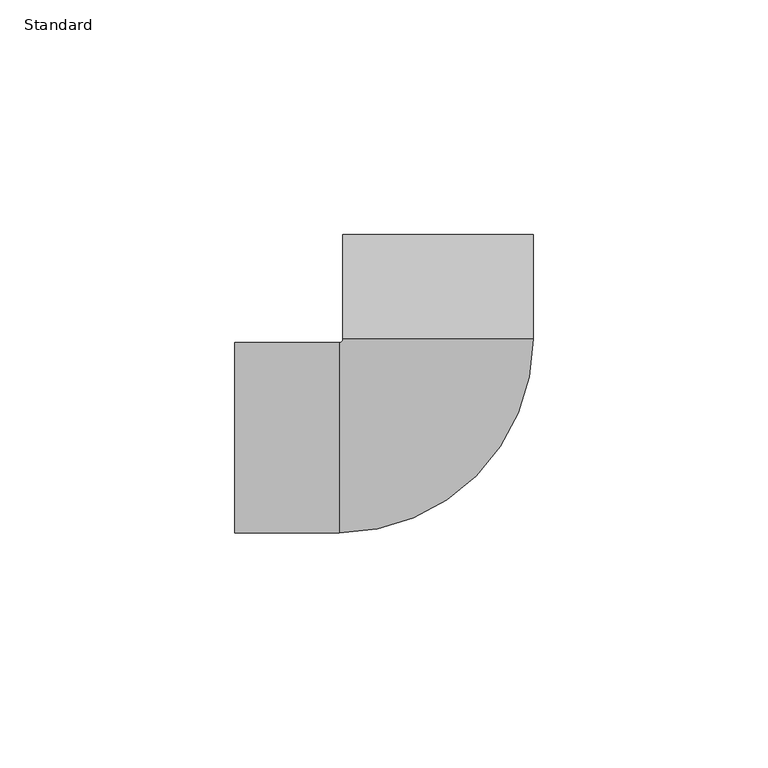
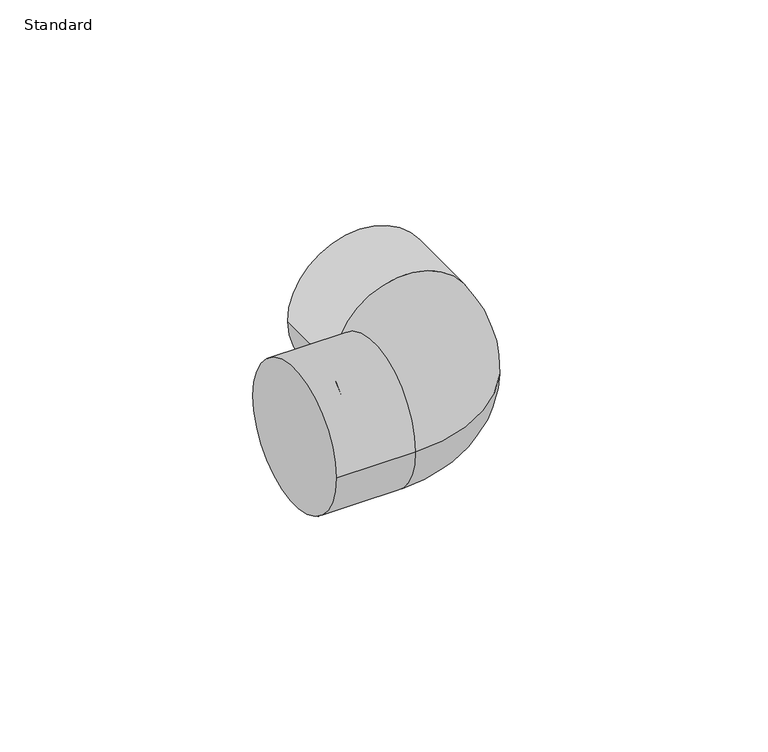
"""IFC4 building model written with IfcOpenShell, lengths in millimetres: pipe fitting geometry, M_Elbow - CPVC - Sch 40 : Standard."""

from ifc_helpers import new_model, si_unit, point, frame, origin, place, context, project, spatial, circle_curve, ellipse_curve, trimmed, source, transform, mapped, element, save
from ifc_brep_helpers import plane_surface, cylinder_surface, revolved_surface, advanced_brep


def standard_517a5a8d(model_context):
    return source(origin(), model_context, "Body", "AdvancedBrep", [
        advanced_brep(
        [(-43.26255, -20.2438, 0.0), (-43.26255, 20.2438, 0.0), (-21.03755, -20.2438, 0.0), (-21.03755, 20.2438, 0.0), (-20.2438, 21.03755, 0.0), (20.2438, 21.03755, 0.0), (20.2438, 43.26255, 0.0), (-20.2438, 43.26255, 0.0)],
        [
            (0, 1, circle_curve(frame((-43.26255, 0.0, 0.0), z_axis=(-1.0, 0.0, 0.0), x_axis=(0.0, 1.0, 0.0)), 20.2438)),
            (1, 0, circle_curve(frame((-43.26255, 0.0, 0.0), z_axis=(-1.0, 0.0, 0.0), x_axis=(0.0, 1.0, 0.0)), 20.2438)),
            (0, 2),
            (2, 3, circle_curve(frame((-21.03755, 0.0, 0.0), z_axis=(-1.0, 0.0, 0.0), x_axis=(0.0, 1.0, 0.0)), 20.2438)),
            (3, 1),
            (3, 2, circle_curve(frame((-21.03755, 0.0, 0.0), z_axis=(-1.0, 0.0, 0.0), x_axis=(0.0, 1.0, 0.0)), 20.2438)),
            (4, 3, circle_curve(frame((-21.03755, 21.03755, 0.0), z_axis=(0.0, 0.0, -1.0), x_axis=(0.0, -1.0, 0.0)), 0.79375)),
            (2, 5, circle_curve(frame((-21.03755, 21.03755, 0.0), z_axis=(0.0, 0.0, 1.0), x_axis=(0.0, -1.0, 0.0)), 41.28135)),
            (5, 4, circle_curve(frame((0.0, 21.03755, 0.0), z_axis=(0.0, -1.0, 0.0), x_axis=(-1.0, 0.0, 0.0)), 20.2438)),
            (4, 5, circle_curve(frame((0.0, 21.03755, 0.0), z_axis=(0.0, -1.0, 0.0), x_axis=(-1.0, 0.0, 0.0)), 20.2438)),
            (6, 7, circle_curve(frame((0.0, 43.26255, 0.0), z_axis=(0.0, 1.0, 0.0), x_axis=(-1.0, 0.0, 0.0)), 20.2438)),
            (7, 6, circle_curve(frame((0.0, 43.26255, 0.0), z_axis=(0.0, 1.0, 0.0), x_axis=(-1.0, 0.0, 0.0)), 20.2438)),
            (5, 6),
            (7, 4),
        ],
        [
            plane_surface(frame((-43.26255, 0.0, 0.0), z_axis=(-1.0, 0.0, 0.0), x_axis=(0.0, 0.0, 1.0))),
            cylinder_surface(frame((-43.26255, 0.0, 0.0), z_axis=(-1.0, 0.0, 0.0), x_axis=(0.0, 1.0, 0.0)), 20.2438),
            revolved_surface(trimmed(ellipse_curve(frame((-21.03755, 0.0, 0.0), z_axis=(-1.0, 0.0, 0.0), x_axis=(0.0, 1.0, 0.0)), 20.2438, 20.2438), [point((-21.03755, -20.2438, 0.0))], [point((-21.03755, 20.2438, 0.0))], True, "CARTESIAN"), (-21.03755, 21.03755, 0.0), (0.0, 0.0, 1.0)),
            revolved_surface(trimmed(ellipse_curve(frame((-21.03755, 0.0, 0.0), z_axis=(-1.0, 0.0, 0.0), x_axis=(0.0, 1.0, 0.0)), 20.2438, 20.2438), [point((-21.03755, 20.2438, 0.0))], [point((-21.03755, -20.2438, 0.0))], True, "CARTESIAN"), (-21.03755, 21.03755, 0.0), (0.0, 0.0, 1.0)),
            plane_surface(frame((0.0, 43.26255, 0.0), z_axis=(0.0, 1.0, 0.0), x_axis=(0.0, 0.0, 1.0))),
            cylinder_surface(frame((0.0, 21.03755, 0.0), z_axis=(0.0, -1.0, 0.0), x_axis=(-1.0, 0.0, 0.0)), 20.2438),
        ],
        [
            (0, [[1, 2]]),
            (1, [[-1, 3, 4, 5]]),
            (1, [[-2, -5, 6, -3]]),
            (2, [[7, -4, 8, 9]]),
            (3, [[-8, -6, -7, 10]]),
            (4, [[11, 12]]),
            (5, [[-9, 13, -12, 14]]),
            (5, [[-10, -14, -11, -13]]),
        ],
    ),
    ])


if __name__ == "__main__":
    model = new_model("IFC4")
    model_context = context("Model", 3, world=origin())
    ifc_project = project(units=[si_unit("LENGTHUNIT", "METRE", prefix="MILLI")], contexts=[model_context])
    site = spatial("IfcSite", under=ifc_project)
    building = spatial("IfcBuilding", under=site)
    placement = place(None, origin())
    standard_shape = standard_517a5a8d(model_context)
    element("IfcPipeFitting", 1, ObjectType="M_Elbow - CPVC - Sch 40 : Standard", at=placement, inside=building, context=model_context, shape_type="MappedRepresentation", body=[
        mapped(standard_shape, transform((0.0, 0.0, 0.0), x_axis=(1.0, 0.0, 0.0), y_axis=(0.0, 1.0, 0.0), z_axis=(0.0, 0.0, 1.0))),
    ])
    save(model, "model.ifc")
